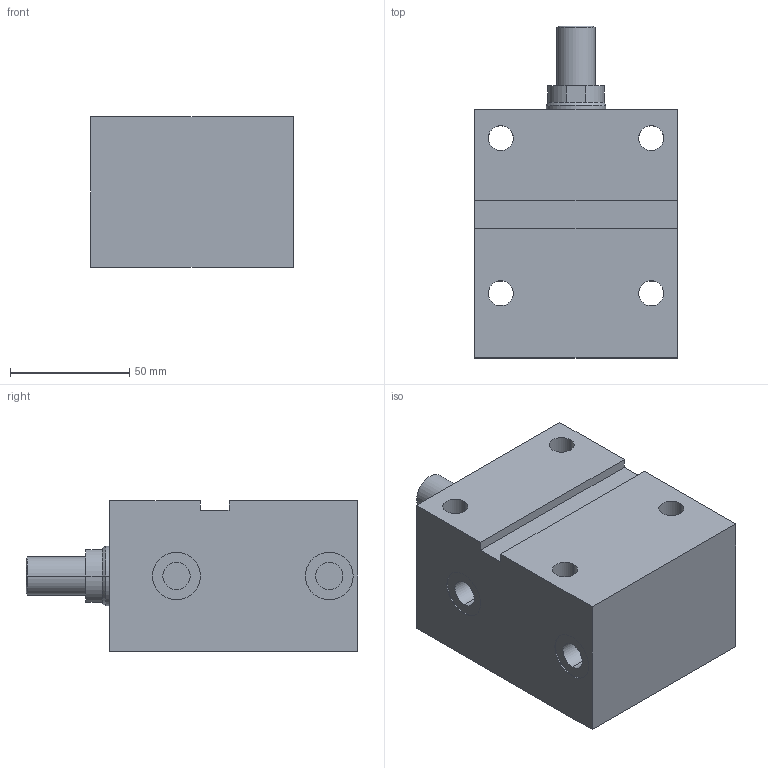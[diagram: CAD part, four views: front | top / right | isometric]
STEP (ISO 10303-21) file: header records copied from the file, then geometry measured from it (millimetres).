
FILE_DESCRIPTION (( 'STEP AP203' ), '1' );
FILE_NAME ('GERMA_Blockzylinder_601-040-050-A.STEP', '2016-04-06T15:54:29', ( '' ), ( '' ), 'SwSTEP 2.0', 'SolidWorks 2015', '' );
FILE_SCHEMA (( 'CONFIG_CONTROL_DESIGN' ));
Length unit declared in the file: millimetre
Products named in the file (3): GH-600-040_GH-601-040-050; Kolben 60x-040_Kolben DU.40-Hub50-AG; GERMA_Blockzylinder_601-040-050-A
Assembly tree (2 placements, depth 2):
  GERMA_Blockzylinder_601-040-050-A
    GH-600-040_GH-601-040-050
    Kolben 60x-040_Kolben DU.40-Hub50-AG
Bounding box: 85 x 139 x 63 mm (x, y, z)
Volume: 498628.2 mm3; surface area: 75367.8 mm2
Topology: 2 solids, 2 shells, 73 faces, 162 edges, 101 vertices
Faces by surface type: cylinder 35, plane 26, cone 12
Entity records: 2330 total; most frequent: DIRECTION 395, CARTESIAN_POINT 337, ORIENTED_EDGE 316, AXIS2_PLACEMENT_3D 159, EDGE_CURVE 158, VERTEX_POINT 101, EDGE_LOOP 93, CIRCLE 81
